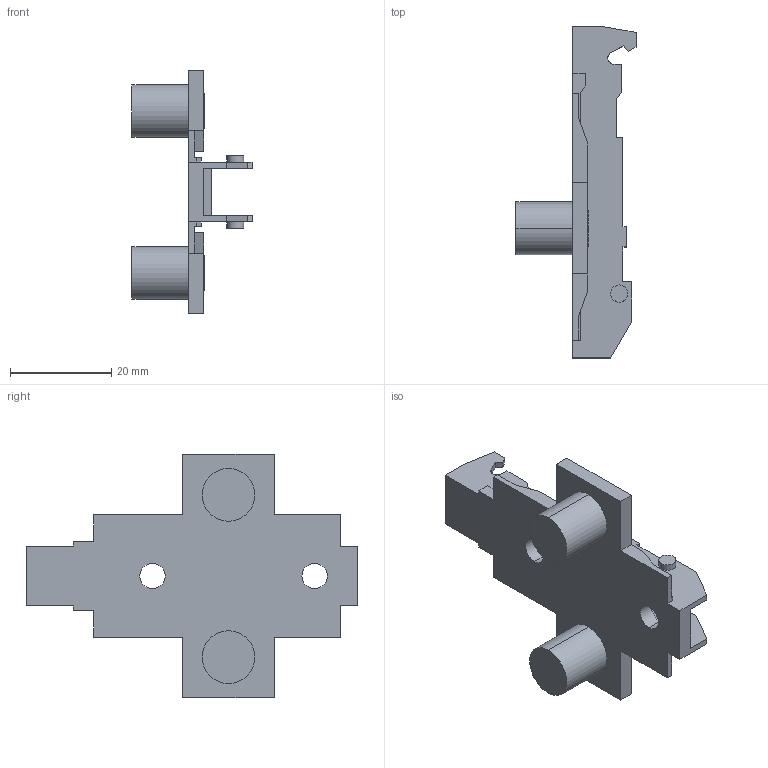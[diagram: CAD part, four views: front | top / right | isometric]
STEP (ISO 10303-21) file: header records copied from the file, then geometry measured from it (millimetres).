
FILE_DESCRIPTION (( 'STEP AP214' ), '1' );
FILE_NAME ('1D_Kreuzmontageplatte 37_32_10mm_Dübel_2.step', '2018-10-02T12:38:47', ( '' ), ( '' ), 'SwSTEP 2.0', 'SolidWorks 2017', '' );
FILE_SCHEMA (( 'AUTOMOTIVE_DESIGN' ));
Length unit declared in the file: millimetre
Products named in the file (1): 1D_Kreuzmontageplatte 37_32_10mm_Dübel_2
Bounding box: 23.7 x 65.5 x 48 mm (x, y, z)
Volume: 7997.7 mm3; surface area: 7167 mm2
Topology: 1 solids, 1 shells, 114 faces, 314 edges, 208 vertices
Faces by surface type: plane 88, cylinder 22, cone 4
Entity records: 3636 total; most frequent: CARTESIAN_POINT 637, ORIENTED_EDGE 628, DIRECTION 592, EDGE_CURVE 314, VECTOR 266, LINE 266, VERTEX_POINT 208, AXIS2_PLACEMENT_3D 163
